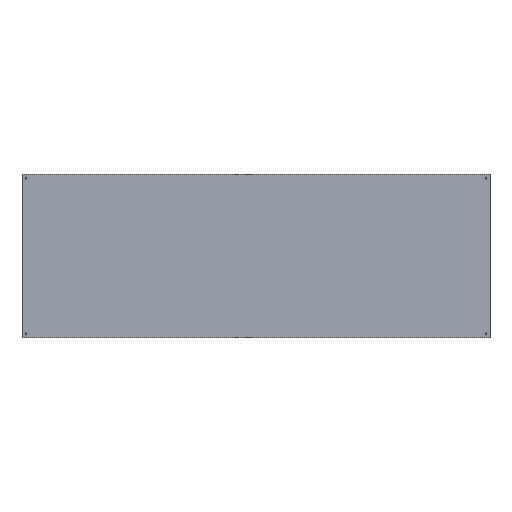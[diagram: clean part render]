
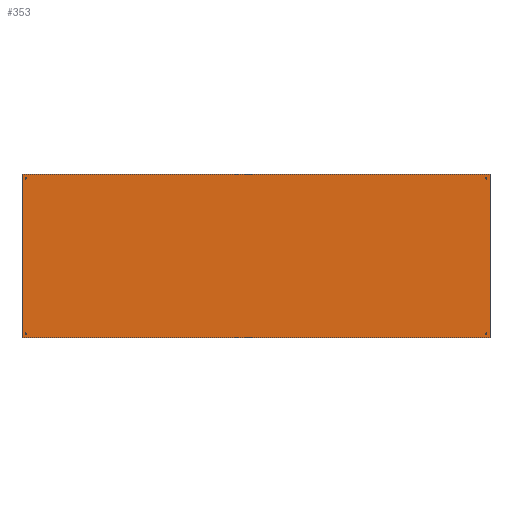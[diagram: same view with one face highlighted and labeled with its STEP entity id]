
A CAD part, top view. The second image highlights one B-rep face of the part: STEP entity #353.
In plain terms, the highlighted planar face has unit normal (0, 0, 1).
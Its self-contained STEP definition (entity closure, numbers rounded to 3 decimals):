
#30=FACE_BOUND('',#82,.T.);
#31=FACE_BOUND('',#83,.T.);
#32=FACE_BOUND('',#84,.T.);
#33=FACE_BOUND('',#85,.T.);
#42=CIRCLE('',#383,5.);
#43=CIRCLE('',#384,5.);
#44=CIRCLE('',#385,5.);
#45=CIRCLE('',#386,5.);
#46=CIRCLE('',#387,5.);
#47=CIRCLE('',#388,5.);
#48=CIRCLE('',#389,5.);
#49=CIRCLE('',#390,5.);
#59=FACE_OUTER_BOUND('',#81,.T.);
#81=EDGE_LOOP('',(#290,#291,#292,#293));
#82=EDGE_LOOP('',(#294,#295));
#83=EDGE_LOOP('',(#296,#297));
#84=EDGE_LOOP('',(#298,#299));
#85=EDGE_LOOP('',(#300,#301));
#101=LINE('',#524,#133);
#103=LINE('',#530,#135);
#110=LINE('',#543,#142);
#117=LINE('',#572,#149);
#133=VECTOR('',#413,304.8);
#135=VECTOR('',#417,304.8);
#142=VECTOR('',#426,304.8);
#149=VECTOR('',#461,304.8);
#158=VERTEX_POINT('',#509);
#165=VERTEX_POINT('',#522);
#167=VERTEX_POINT('',#527);
#168=VERTEX_POINT('',#529);
#182=VERTEX_POINT('',#574);
#183=VERTEX_POINT('',#575);
#184=VERTEX_POINT('',#578);
#185=VERTEX_POINT('',#579);
#186=VERTEX_POINT('',#582);
#187=VERTEX_POINT('',#583);
#188=VERTEX_POINT('',#586);
#189=VERTEX_POINT('',#587);
#197=EDGE_CURVE('',#165,#158,#101,.T.);
#199=EDGE_CURVE('',#167,#168,#103,.T.);
#206=EDGE_CURVE('',#158,#167,#110,.T.);
#221=EDGE_CURVE('',#168,#165,#117,.T.);
#222=EDGE_CURVE('',#182,#183,#42,.T.);
#223=EDGE_CURVE('',#183,#182,#43,.T.);
#224=EDGE_CURVE('',#184,#185,#44,.T.);
#225=EDGE_CURVE('',#185,#184,#45,.T.);
#226=EDGE_CURVE('',#186,#187,#46,.T.);
#227=EDGE_CURVE('',#187,#186,#47,.T.);
#228=EDGE_CURVE('',#188,#189,#48,.T.);
#229=EDGE_CURVE('',#189,#188,#49,.T.);
#290=ORIENTED_EDGE('',*,*,#197,.F.);
#291=ORIENTED_EDGE('',*,*,#221,.F.);
#292=ORIENTED_EDGE('',*,*,#199,.F.);
#293=ORIENTED_EDGE('',*,*,#206,.F.);
#294=ORIENTED_EDGE('',*,*,#222,.T.);
#295=ORIENTED_EDGE('',*,*,#223,.T.);
#296=ORIENTED_EDGE('',*,*,#224,.T.);
#297=ORIENTED_EDGE('',*,*,#225,.T.);
#298=ORIENTED_EDGE('',*,*,#226,.T.);
#299=ORIENTED_EDGE('',*,*,#227,.T.);
#300=ORIENTED_EDGE('',*,*,#228,.T.);
#301=ORIENTED_EDGE('',*,*,#229,.T.);
#343=PLANE('',#382);
#353=ADVANCED_FACE('',(#59,#30,#31,#32,#33),#343,.T.);
#382=AXIS2_PLACEMENT_3D('',#573,#462,#463);
#383=AXIS2_PLACEMENT_3D('',#576,#464,#465);
#384=AXIS2_PLACEMENT_3D('',#577,#466,#467);
#385=AXIS2_PLACEMENT_3D('',#580,#468,#469);
#386=AXIS2_PLACEMENT_3D('',#581,#470,#471);
#387=AXIS2_PLACEMENT_3D('',#584,#472,#473);
#388=AXIS2_PLACEMENT_3D('',#585,#474,#475);
#389=AXIS2_PLACEMENT_3D('',#588,#476,#477);
#390=AXIS2_PLACEMENT_3D('',#589,#478,#479);
#413=DIRECTION('',(0.,-1.,0.));
#417=DIRECTION('',(0.,1.,0.));
#426=DIRECTION('',(-1.,0.,0.));
#461=DIRECTION('',(1.,0.,0.));
#462=DIRECTION('center_axis',(0.,0.,1.));
#463=DIRECTION('ref_axis',(-1.,0.,0.));
#464=DIRECTION('center_axis',(0.,0.,-1.));
#465=DIRECTION('ref_axis',(1.,0.,0.));
#466=DIRECTION('center_axis',(0.,0.,-1.));
#467=DIRECTION('ref_axis',(1.,0.,0.));
#468=DIRECTION('center_axis',(0.,0.,-1.));
#469=DIRECTION('ref_axis',(1.,0.,0.));
#470=DIRECTION('center_axis',(0.,0.,-1.));
#471=DIRECTION('ref_axis',(1.,0.,0.));
#472=DIRECTION('center_axis',(0.,0.,-1.));
#473=DIRECTION('ref_axis',(1.,0.,0.));
#474=DIRECTION('center_axis',(0.,0.,-1.));
#475=DIRECTION('ref_axis',(1.,0.,0.));
#476=DIRECTION('center_axis',(0.,0.,-1.));
#477=DIRECTION('ref_axis',(1.,0.,0.));
#478=DIRECTION('center_axis',(0.,0.,-1.));
#479=DIRECTION('ref_axis',(1.,0.,0.));
#509=CARTESIAN_POINT('',(3000.,-525.,1.5));
#522=CARTESIAN_POINT('',(3000.,525.,1.5));
#524=CARTESIAN_POINT('',(3000.,525.,1.5));
#527=CARTESIAN_POINT('',(0.,-525.,1.5));
#529=CARTESIAN_POINT('',(0.,525.,1.5));
#530=CARTESIAN_POINT('',(0.,-525.,1.5));
#543=CARTESIAN_POINT('',(3000.,-525.,1.5));
#572=CARTESIAN_POINT('',(3000.,525.,1.5));
#573=CARTESIAN_POINT('Origin',(3000.,525.,1.5));
#574=CARTESIAN_POINT('',(30.,498.5,1.5));
#575=CARTESIAN_POINT('',(20.,498.5,1.5));
#576=CARTESIAN_POINT('Origin',(25.,498.5,1.5));
#577=CARTESIAN_POINT('Origin',(25.,498.5,1.5));
#578=CARTESIAN_POINT('',(30.,-498.5,1.5));
#579=CARTESIAN_POINT('',(20.,-498.5,1.5));
#580=CARTESIAN_POINT('Origin',(25.,-498.5,1.5));
#581=CARTESIAN_POINT('Origin',(25.,-498.5,1.5));
#582=CARTESIAN_POINT('',(2980.,498.5,1.5));
#583=CARTESIAN_POINT('',(2970.,498.5,1.5));
#584=CARTESIAN_POINT('Origin',(2975.,498.5,1.5));
#585=CARTESIAN_POINT('Origin',(2975.,498.5,1.5));
#586=CARTESIAN_POINT('',(2980.,-498.5,1.5));
#587=CARTESIAN_POINT('',(2970.,-498.5,1.5));
#588=CARTESIAN_POINT('Origin',(2975.,-498.5,1.5));
#589=CARTESIAN_POINT('Origin',(2975.,-498.5,1.5));
